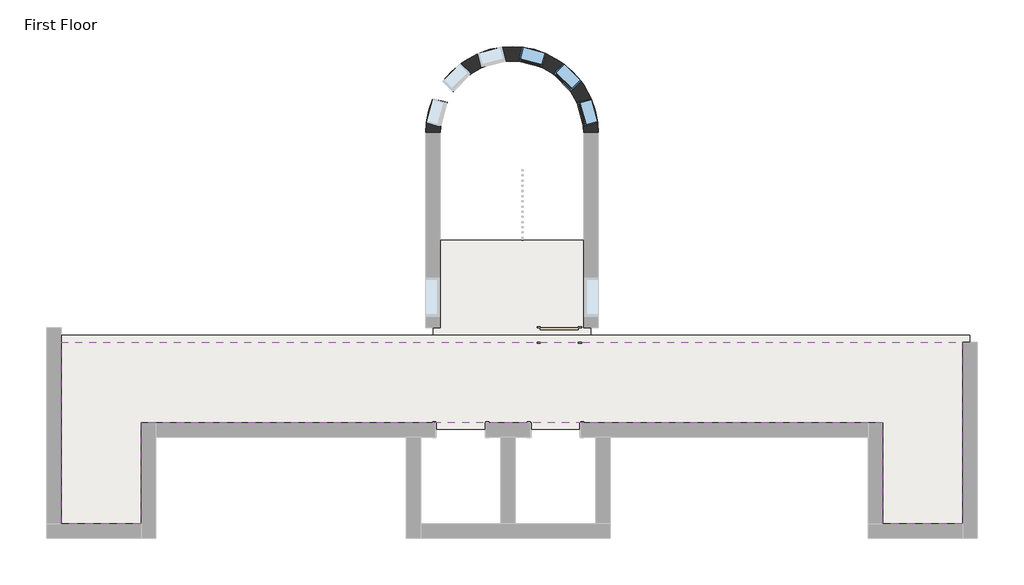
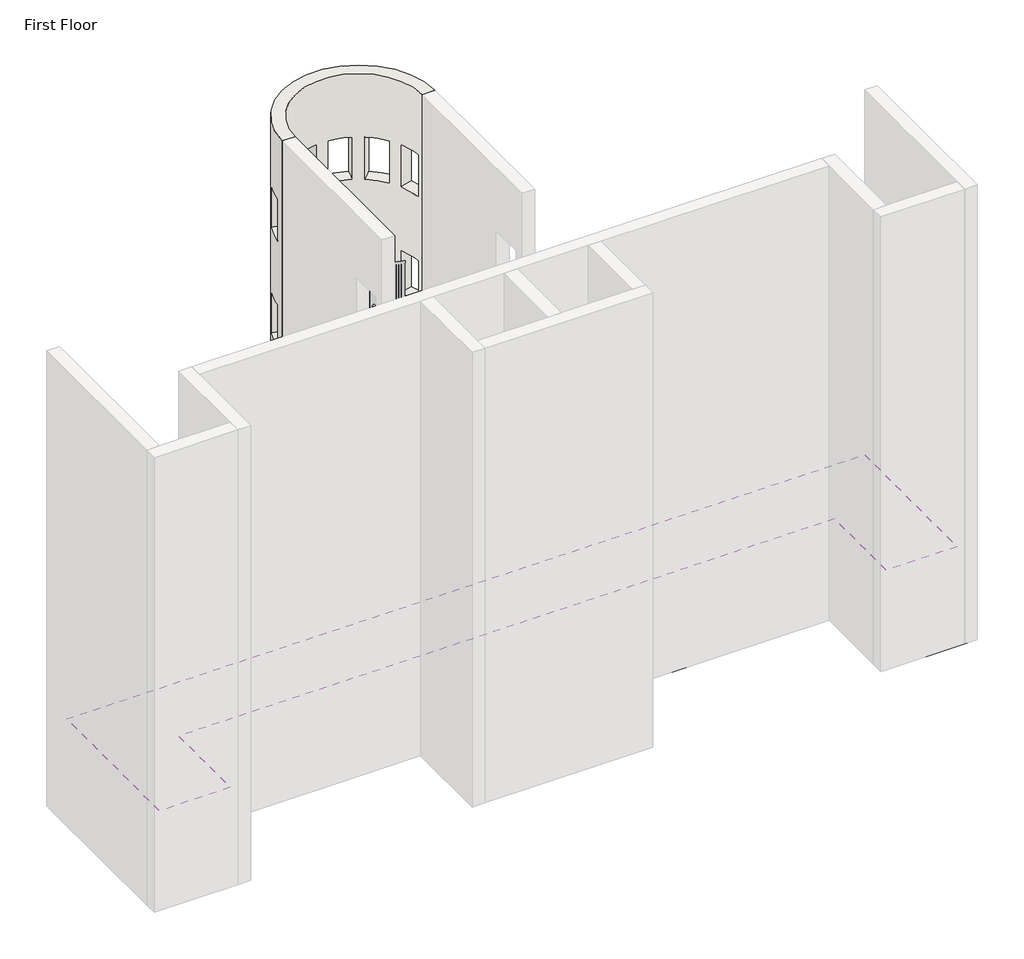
# One storey, part 2 of 4: 3 windows, 2 slabs, 1 covering, 1 wall.
"""IFC4 building model written with IfcOpenShell, lengths in millimetres."""

from ifc_helpers import new_model, si_unit, frame, origin, place, context, project, spatial, polyline, circle_curve, outline, extrude, transform, mapped, element, save
from ifc_brep_helpers import plane_surface, cylinder_surface, revolved_surface, advanced_brep
from components import m_fixed_0610_x_1220mm_1ea27827

model = new_model("IFC4")

# Units and contexts
model_context = context("Model", 3, world=origin())
ifc_project = project(units=[si_unit("LENGTHUNIT", "METRE", prefix="MILLI")], contexts=[model_context])

# Site, building, storey
site = spatial("IfcSite", under=ifc_project)
building = spatial("IfcBuilding", under=site)
storey = spatial("IfcBuildingStorey", under=building, Name="First Floor", Elevation=0.0)

# Covering
placement = place(None, origin())
element("IfcCovering", 1, ObjectType="Plain", at=placement, inside=storey, context=model_context, shape_type="SweptSolid", body=[
    extrude(outline(polyline([(-6448.9075433, -2875.7443399), (-6448.9075433, -5314.1443399), (-8384.9075433, -5314.1443399), (-8384.9075433, -939.7443399), (13363.0924567, -939.7443399), (13363.0924567, -5314.1443399), (11427.0924567, -5314.1443399), (11427.0924567, -2875.7443399), (-6448.9075433, -2875.7443399)])), frame((0.0, 0.0, 2591.0), z_axis=(0.0, 0.0, 1.0), x_axis=(1.0, 0.0, 0.0)), (0.0, 0.0, 1.0), 57.0),
])

# Slabs
element("IfcSlab", 2, ObjectType="Generic 150mm", at=placement, inside=storey, context=model_context, shape_type="SweptSolid", body=[
    extrude(outline(polyline([(13528.0924567, -774.7443399), (13528.0924567, -5479.1443399), (11262.0924567, -5479.1443399), (11262.0924567, -3040.7443399), (-6283.9075433, -3040.7443399), (-6283.9075433, -5479.1443399), (-8549.9075433, -5479.1443399), (-8549.9075433, -774.7443399), (13528.0924567, -774.7443399)])), frame((0.0, 0.0, -150.0), z_axis=(0.0, 0.0, 1.0), x_axis=(1.0, 0.0, 0.0)), (0.0, 0.0, 1.0), 150.0),
])
element("IfcSlab", 3, ObjectType="Generic 150mm", at=placement, inside=storey, context=model_context, shape_type="SweptSolid", body=[
    extrude(outline(polyline([(4394.0924567, -764.7443399), (584.0924567, -764.7443399), (584.0924567, 1521.2556601), (4394.0924567, 1521.2556601), (4394.0924567, -764.7443399)])), frame((0.0, 0.0, -150.0), z_axis=(0.0, 0.0, 1.0), x_axis=(1.0, 0.0, 0.0)), (0.0, 0.0, 1.0), 150.0),
])

# Wall
element("IfcWall", 4, ObjectType="Exterior - Brick on Mtl. Stud", at=placement, inside=storey, context=model_context, shape_type="AdvancedBrep", body=[
    advanced_brep(
    [(4569.0924567, 4112.2556601, 13107.0), (409.0924567, 4112.2556601, 13107.0), (759.0924567, 4112.2556601, 13107.0), (4219.0924567, 4112.2556601, 13107.0), (409.0924567, 4112.2556601, 0.0), (4569.0924567, 4112.2556601, 0.0), (4219.0924567, 4112.2556601, 0.0), (759.0924567, 4112.2556601, 0.0), (580.6237401, 4939.3875465, 915.0), (580.6237401, 4939.3875465, 2135.0), (422.7441225, 4350.1727925, 2135.0), (422.7441225, 4350.1727925, 915.0), (2251.1753243, 6178.6039943, 915.0), (2251.1753243, 6178.6039943, 2135.0), (1661.9605703, 6020.7243768, 2135.0), (1661.9605703, 6020.7243768, 915.0), (1249.876009, 5782.8072444, 915.0), (1249.876009, 5782.8072444, 2135.0), (818.5408725, 5351.4721078, 2135.0), (818.5408725, 5351.4721078, 915.0), (3728.3089044, 5782.8072444, 2135.0), (3728.3089044, 5782.8072444, 915.0), (4159.644041, 5351.4721078, 915.0), (4159.644041, 5351.4721078, 2135.0), (2727.0095891, 6178.6039943, 2135.0), (2727.0095891, 6178.6039943, 915.0), (3316.2243431, 6020.7243768, 915.0), (3316.2243431, 6020.7243768, 2135.0), (4397.5611734, 4939.3875465, 2135.0), (4397.5611734, 4939.3875465, 915.0), (4555.4407909, 4350.1727925, 915.0), (4555.4407909, 4350.1727925, 2135.0), (3728.3089044, 5782.8072444, 11279.0), (3728.3089044, 5782.8072444, 10059.0), (4159.644041, 5351.4721078, 10059.0), (4159.644041, 5351.4721078, 11279.0), (2727.0095891, 6178.6039943, 11279.0), (2727.0095891, 6178.6039943, 10059.0), (3316.2243431, 6020.7243768, 10059.0), (3316.2243431, 6020.7243768, 11279.0), (4397.5611734, 4939.3875465, 11279.0), (4397.5611734, 4939.3875465, 10059.0), (4555.4407909, 4350.1727925, 10059.0), (4555.4407909, 4350.1727925, 11279.0), (1249.876009, 5782.8072444, 10059.0), (1249.876009, 5782.8072444, 11279.0), (818.5408725, 5351.4721078, 11279.0), (818.5408725, 5351.4721078, 10059.0), (2251.1753243, 6178.6039943, 10059.0), (2251.1753243, 6178.6039943, 11279.0), (1661.9605703, 6020.7243768, 11279.0), (1661.9605703, 6020.7243768, 10059.0), (580.6237401, 4939.3875465, 10059.0), (580.6237401, 4939.3875465, 11279.0), (422.7441225, 4350.1727925, 11279.0), (422.7441225, 4350.1727925, 10059.0), (3728.3089044, 5782.8072444, 5183.0), (3728.3089044, 5782.8072444, 3963.0), (4159.644041, 5351.4721078, 3963.0), (4159.644041, 5351.4721078, 5183.0), (2727.0095891, 6178.6039943, 5183.0), (2727.0095891, 6178.6039943, 3963.0), (3316.2243431, 6020.7243768, 3963.0), (3316.2243431, 6020.7243768, 5183.0), (4397.5611734, 4939.3875465, 5183.0), (4397.5611734, 4939.3875465, 3963.0), (4555.4407909, 4350.1727925, 3963.0), (4555.4407909, 4350.1727925, 5183.0), (1249.876009, 5782.8072444, 3963.0), (1249.876009, 5782.8072444, 5183.0), (818.5408725, 5351.4721078, 5183.0), (818.5408725, 5351.4721078, 3963.0), (2251.1753243, 6178.6039943, 3963.0), (2251.1753243, 6178.6039943, 5183.0), (1661.9605703, 6020.7243768, 5183.0), (1661.9605703, 6020.7243768, 3963.0), (580.6237401, 4939.3875465, 3963.0), (580.6237401, 4939.3875465, 5183.0), (422.7441225, 4350.1727925, 5183.0), (422.7441225, 4350.1727925, 3963.0), (3728.3089044, 5782.8072444, 8231.0), (3728.3089044, 5782.8072444, 7011.0), (4159.644041, 5351.4721078, 7011.0), (4159.644041, 5351.4721078, 8231.0), (2727.0095891, 6178.6039943, 8231.0), (2727.0095891, 6178.6039943, 7011.0), (3316.2243431, 6020.7243768, 7011.0), (3316.2243431, 6020.7243768, 8231.0), (4397.5611734, 4939.3875465, 8231.0), (4397.5611734, 4939.3875465, 7011.0), (4555.4407909, 4350.1727925, 7011.0), (4555.4407909, 4350.1727925, 8231.0), (1249.876009, 5782.8072444, 7011.0), (1249.876009, 5782.8072444, 8231.0), (818.5408725, 5351.4721078, 8231.0), (818.5408725, 5351.4721078, 7011.0), (2251.1753243, 6178.6039943, 7011.0), (2251.1753243, 6178.6039943, 8231.0), (1661.9605703, 6020.7243768, 8231.0), (1661.9605703, 6020.7243768, 7011.0), (580.6237401, 4939.3875465, 7011.0), (580.6237401, 4939.3875465, 8231.0), (422.7441225, 4350.1727925, 8231.0), (422.7441225, 4350.1727925, 7011.0), (923.1553069, 4847.6064898, 915.0), (765.2756894, 4258.3917358, 915.0), (765.2756894, 4258.3917358, 2135.0), (923.1553069, 4847.6064898, 2135.0), (2342.956381, 5836.0724274, 2135.0), (2342.956381, 5836.0724274, 915.0), (1753.741627, 5678.1928099, 915.0), (1753.741627, 5678.1928099, 2135.0), (1500.6265191, 5532.0567342, 2135.0), (1500.6265191, 5532.0567342, 915.0), (1069.2913826, 5100.7215977, 915.0), (1069.2913826, 5100.7215977, 2135.0), (3477.5583943, 5532.0567342, 915.0), (3477.5583943, 5532.0567342, 2135.0), (3908.8935309, 5100.7215977, 2135.0), (3908.8935309, 5100.7215977, 915.0), (2635.2285324, 5836.0724274, 915.0), (2635.2285324, 5836.0724274, 2135.0), (3224.4432864, 5678.1928099, 2135.0), (3224.4432864, 5678.1928099, 915.0), (4055.0296065, 4847.6064898, 915.0), (4055.0296065, 4847.6064898, 2135.0), (4212.9092241, 4258.3917358, 2135.0), (4212.9092241, 4258.3917358, 915.0), (3477.5583943, 5532.0567342, 10059.0), (3477.5583943, 5532.0567342, 11279.0), (3908.8935309, 5100.7215977, 11279.0), (3908.8935309, 5100.7215977, 10059.0), (2635.2285324, 5836.0724274, 10059.0), (2635.2285324, 5836.0724274, 11279.0), (3224.4432864, 5678.1928099, 11279.0), (3224.4432864, 5678.1928099, 10059.0), (4055.0296065, 4847.6064898, 10059.0), (4055.0296065, 4847.6064898, 11279.0), (4212.9092241, 4258.3917358, 11279.0), (4212.9092241, 4258.3917358, 10059.0), (1500.6265191, 5532.0567342, 11279.0), (1500.6265191, 5532.0567342, 10059.0), (1069.2913826, 5100.7215977, 10059.0), (1069.2913826, 5100.7215977, 11279.0), (2342.956381, 5836.0724274, 11279.0), (2342.956381, 5836.0724274, 10059.0), (1753.741627, 5678.1928099, 10059.0), (1753.741627, 5678.1928099, 11279.0), (923.1553069, 4847.6064898, 11279.0), (923.1553069, 4847.6064898, 10059.0), (765.2756894, 4258.3917358, 10059.0), (765.2756894, 4258.3917358, 11279.0), (3477.5583943, 5532.0567342, 3963.0), (3477.5583943, 5532.0567342, 5183.0), (3908.8935309, 5100.7215977, 5183.0), (3908.8935309, 5100.7215977, 3963.0), (2635.2285324, 5836.0724274, 3963.0), (2635.2285324, 5836.0724274, 5183.0), (3224.4432864, 5678.1928099, 5183.0), (3224.4432864, 5678.1928099, 3963.0), (4055.0296065, 4847.6064898, 3963.0), (4055.0296065, 4847.6064898, 5183.0), (4212.9092241, 4258.3917358, 5183.0), (4212.9092241, 4258.3917358, 3963.0), (1500.6265191, 5532.0567342, 5183.0), (1500.6265191, 5532.0567342, 3963.0), (1069.2913826, 5100.7215977, 3963.0), (1069.2913826, 5100.7215977, 5183.0), (2342.956381, 5836.0724274, 5183.0), (2342.956381, 5836.0724274, 3963.0), (1753.741627, 5678.1928099, 3963.0), (1753.741627, 5678.1928099, 5183.0), (923.1553069, 4847.6064898, 5183.0), (923.1553069, 4847.6064898, 3963.0), (765.2756894, 4258.3917358, 3963.0), (765.2756894, 4258.3917358, 5183.0), (3477.5583943, 5532.0567342, 7011.0), (3477.5583943, 5532.0567342, 8231.0), (3908.8935309, 5100.7215977, 8231.0), (3908.8935309, 5100.7215977, 7011.0), (2635.2285324, 5836.0724274, 7011.0), (2635.2285324, 5836.0724274, 8231.0), (3224.4432864, 5678.1928099, 8231.0), (3224.4432864, 5678.1928099, 7011.0), (4055.0296065, 4847.6064898, 7011.0), (4055.0296065, 4847.6064898, 8231.0), (4212.9092241, 4258.3917358, 8231.0), (4212.9092241, 4258.3917358, 7011.0), (1500.6265191, 5532.0567342, 8231.0), (1500.6265191, 5532.0567342, 7011.0), (1069.2913826, 5100.7215977, 7011.0), (1069.2913826, 5100.7215977, 8231.0), (2342.956381, 5836.0724274, 8231.0), (2342.956381, 5836.0724274, 7011.0), (1753.741627, 5678.1928099, 7011.0), (1753.741627, 5678.1928099, 8231.0), (923.1553069, 4847.6064898, 8231.0), (923.1553069, 4847.6064898, 7011.0), (765.2756894, 4258.3917358, 7011.0), (765.2756894, 4258.3917358, 8231.0)],
    [
        (0, 1, circle_curve(frame((2489.0924567, 4112.2556601, 13107.0), z_axis=(0.0, 0.0, 1.0), x_axis=(1.0, 0.0, 0.0)), 2080.0)),
        (1, 2),
        (2, 3, circle_curve(frame((2489.0924567, 4112.2556601, 13107.0), z_axis=(0.0, 0.0, -1.0), x_axis=(1.0, 0.0, 0.0)), 1730.0)),
        (3, 0),
        (4, 5, circle_curve(frame((2489.0924567, 4112.2556601, 0.0), z_axis=(0.0, 0.0, -1.0), x_axis=(1.0, 0.0, 0.0)), 2080.0)),
        (5, 6),
        (6, 7, circle_curve(frame((2489.0924567, 4112.2556601, 0.0), z_axis=(0.0, 0.0, 1.0), x_axis=(1.0, 0.0, 0.0)), 1730.0)),
        (7, 4),
        (0, 5),
        (4, 1),
        (8, 9),
        (9, 10, circle_curve(frame((2489.0924567, 4112.2556601, 2135.0), z_axis=(0.0, 0.0, 1.0), x_axis=(1.0, 0.0, 0.0)), 2080.0)),
        (10, 11),
        (11, 8, circle_curve(frame((2489.0924567, 4112.2556601, 915.0), z_axis=(0.0, 0.0, -1.0), x_axis=(1.0, 0.0, 0.0)), 2080.0)),
        (12, 13),
        (13, 14, circle_curve(frame((2489.0924567, 4112.2556601, 2135.0), z_axis=(0.0, 0.0, 1.0), x_axis=(1.0, 0.0, 0.0)), 2080.0)),
        (14, 15),
        (15, 12, circle_curve(frame((2489.0924567, 4112.2556601, 915.0), z_axis=(0.0, 0.0, -1.0), x_axis=(1.0, 0.0, 0.0)), 2080.0)),
        (16, 17),
        (17, 18, circle_curve(frame((2489.0924567, 4112.2556601, 2135.0), z_axis=(0.0, 0.0, 1.0), x_axis=(1.0, 0.0, 0.0)), 2080.0)),
        (18, 19),
        (19, 16, circle_curve(frame((2489.0924567, 4112.2556601, 915.0), z_axis=(0.0, 0.0, -1.0), x_axis=(1.0, 0.0, 0.0)), 2080.0)),
        (20, 21),
        (21, 22, circle_curve(frame((2489.0924567, 4112.2556601, 915.0), z_axis=(0.0, 0.0, -1.0), x_axis=(1.0, 0.0, 0.0)), 2080.0)),
        (22, 23),
        (23, 20, circle_curve(frame((2489.0924567, 4112.2556601, 2135.0), z_axis=(0.0, 0.0, 1.0), x_axis=(1.0, 0.0, 0.0)), 2080.0)),
        (24, 25),
        (25, 26, circle_curve(frame((2489.0924567, 4112.2556601, 915.0), z_axis=(0.0, 0.0, -1.0), x_axis=(1.0, 0.0, 0.0)), 2080.0)),
        (26, 27),
        (27, 24, circle_curve(frame((2489.0924567, 4112.2556601, 2135.0), z_axis=(0.0, 0.0, 1.0), x_axis=(1.0, 0.0, 0.0)), 2080.0)),
        (28, 29),
        (29, 30, circle_curve(frame((2489.0924567, 4112.2556601, 915.0), z_axis=(0.0, 0.0, -1.0), x_axis=(1.0, 0.0, 0.0)), 2080.0)),
        (30, 31),
        (31, 28, circle_curve(frame((2489.0924567, 4112.2556601, 2135.0), z_axis=(0.0, 0.0, 1.0), x_axis=(1.0, 0.0, 0.0)), 2080.0)),
        (32, 33),
        (33, 34, circle_curve(frame((2489.0924567, 4112.2556601, 10059.0), z_axis=(0.0, 0.0, -1.0), x_axis=(1.0, 0.0, 0.0)), 2080.0)),
        (34, 35),
        (35, 32, circle_curve(frame((2489.0924567, 4112.2556601, 11279.0), z_axis=(0.0, 0.0, 1.0), x_axis=(1.0, 0.0, 0.0)), 2080.0)),
        (36, 37),
        (37, 38, circle_curve(frame((2489.0924567, 4112.2556601, 10059.0), z_axis=(0.0, 0.0, -1.0), x_axis=(1.0, 0.0, 0.0)), 2080.0)),
        (38, 39),
        (39, 36, circle_curve(frame((2489.0924567, 4112.2556601, 11279.0), z_axis=(0.0, 0.0, 1.0), x_axis=(1.0, 0.0, 0.0)), 2080.0)),
        (40, 41),
        (41, 42, circle_curve(frame((2489.0924567, 4112.2556601, 10059.0), z_axis=(0.0, 0.0, -1.0), x_axis=(1.0, 0.0, 0.0)), 2080.0)),
        (42, 43),
        (43, 40, circle_curve(frame((2489.0924567, 4112.2556601, 11279.0), z_axis=(0.0, 0.0, 1.0), x_axis=(1.0, 0.0, 0.0)), 2080.0)),
        (44, 45),
        (45, 46, circle_curve(frame((2489.0924567, 4112.2556601, 11279.0), z_axis=(0.0, 0.0, 1.0), x_axis=(1.0, 0.0, 0.0)), 2080.0)),
        (46, 47),
        (47, 44, circle_curve(frame((2489.0924567, 4112.2556601, 10059.0), z_axis=(0.0, 0.0, -1.0), x_axis=(1.0, 0.0, 0.0)), 2080.0)),
        (48, 49),
        (49, 50, circle_curve(frame((2489.0924567, 4112.2556601, 11279.0), z_axis=(0.0, 0.0, 1.0), x_axis=(1.0, 0.0, 0.0)), 2080.0)),
        (50, 51),
        (51, 48, circle_curve(frame((2489.0924567, 4112.2556601, 10059.0), z_axis=(0.0, 0.0, -1.0), x_axis=(1.0, 0.0, 0.0)), 2080.0)),
        (52, 53),
        (53, 54, circle_curve(frame((2489.0924567, 4112.2556601, 11279.0), z_axis=(0.0, 0.0, 1.0), x_axis=(1.0, 0.0, 0.0)), 2080.0)),
        (54, 55),
        (55, 52, circle_curve(frame((2489.0924567, 4112.2556601, 10059.0), z_axis=(0.0, 0.0, -1.0), x_axis=(1.0, 0.0, 0.0)), 2080.0)),
        (56, 57),
        (57, 58, circle_curve(frame((2489.0924567, 4112.2556601, 3963.0), z_axis=(0.0, 0.0, -1.0), x_axis=(1.0, 0.0, 0.0)), 2080.0)),
        (58, 59),
        (59, 56, circle_curve(frame((2489.0924567, 4112.2556601, 5183.0), z_axis=(0.0, 0.0, 1.0), x_axis=(1.0, 0.0, 0.0)), 2080.0)),
        (60, 61),
        (61, 62, circle_curve(frame((2489.0924567, 4112.2556601, 3963.0), z_axis=(0.0, 0.0, -1.0), x_axis=(1.0, 0.0, 0.0)), 2080.0)),
        (62, 63),
        (63, 60, circle_curve(frame((2489.0924567, 4112.2556601, 5183.0), z_axis=(0.0, 0.0, 1.0), x_axis=(1.0, 0.0, 0.0)), 2080.0)),
        (64, 65),
        (65, 66, circle_curve(frame((2489.0924567, 4112.2556601, 3963.0), z_axis=(0.0, 0.0, -1.0), x_axis=(1.0, 0.0, 0.0)), 2080.0)),
        (66, 67),
        (67, 64, circle_curve(frame((2489.0924567, 4112.2556601, 5183.0), z_axis=(0.0, 0.0, 1.0), x_axis=(1.0, 0.0, 0.0)), 2080.0)),
        (68, 69),
        (69, 70, circle_curve(frame((2489.0924567, 4112.2556601, 5183.0), z_axis=(0.0, 0.0, 1.0), x_axis=(1.0, 0.0, 0.0)), 2080.0)),
        (70, 71),
        (71, 68, circle_curve(frame((2489.0924567, 4112.2556601, 3963.0), z_axis=(0.0, 0.0, -1.0), x_axis=(1.0, 0.0, 0.0)), 2080.0)),
        (72, 73),
        (73, 74, circle_curve(frame((2489.0924567, 4112.2556601, 5183.0), z_axis=(0.0, 0.0, 1.0), x_axis=(1.0, 0.0, 0.0)), 2080.0)),
        (74, 75),
        (75, 72, circle_curve(frame((2489.0924567, 4112.2556601, 3963.0), z_axis=(0.0, 0.0, -1.0), x_axis=(1.0, 0.0, 0.0)), 2080.0)),
        (76, 77),
        (77, 78, circle_curve(frame((2489.0924567, 4112.2556601, 5183.0), z_axis=(0.0, 0.0, 1.0), x_axis=(1.0, 0.0, 0.0)), 2080.0)),
        (78, 79),
        (79, 76, circle_curve(frame((2489.0924567, 4112.2556601, 3963.0), z_axis=(0.0, 0.0, -1.0), x_axis=(1.0, 0.0, 0.0)), 2080.0)),
        (80, 81),
        (81, 82, circle_curve(frame((2489.0924567, 4112.2556601, 7011.0), z_axis=(0.0, 0.0, -1.0), x_axis=(1.0, 0.0, 0.0)), 2080.0)),
        (82, 83),
        (83, 80, circle_curve(frame((2489.0924567, 4112.2556601, 8231.0), z_axis=(0.0, 0.0, 1.0), x_axis=(1.0, 0.0, 0.0)), 2080.0)),
        (84, 85),
        (85, 86, circle_curve(frame((2489.0924567, 4112.2556601, 7011.0), z_axis=(0.0, 0.0, -1.0), x_axis=(1.0, 0.0, 0.0)), 2080.0)),
        (86, 87),
        (87, 84, circle_curve(frame((2489.0924567, 4112.2556601, 8231.0), z_axis=(0.0, 0.0, 1.0), x_axis=(1.0, 0.0, 0.0)), 2080.0)),
        (88, 89),
        (89, 90, circle_curve(frame((2489.0924567, 4112.2556601, 7011.0), z_axis=(0.0, 0.0, -1.0), x_axis=(1.0, 0.0, 0.0)), 2080.0)),
        (90, 91),
        (91, 88, circle_curve(frame((2489.0924567, 4112.2556601, 8231.0), z_axis=(0.0, 0.0, 1.0), x_axis=(1.0, 0.0, 0.0)), 2080.0)),
        (92, 93),
        (93, 94, circle_curve(frame((2489.0924567, 4112.2556601, 8231.0), z_axis=(0.0, 0.0, 1.0), x_axis=(1.0, 0.0, 0.0)), 2080.0)),
        (94, 95),
        (95, 92, circle_curve(frame((2489.0924567, 4112.2556601, 7011.0), z_axis=(0.0, 0.0, -1.0), x_axis=(1.0, 0.0, 0.0)), 2080.0)),
        (96, 97),
        (97, 98, circle_curve(frame((2489.0924567, 4112.2556601, 8231.0), z_axis=(0.0, 0.0, 1.0), x_axis=(1.0, 0.0, 0.0)), 2080.0)),
        (98, 99),
        (99, 96, circle_curve(frame((2489.0924567, 4112.2556601, 7011.0), z_axis=(0.0, 0.0, -1.0), x_axis=(1.0, 0.0, 0.0)), 2080.0)),
        (100, 101),
        (101, 102, circle_curve(frame((2489.0924567, 4112.2556601, 8231.0), z_axis=(0.0, 0.0, 1.0), x_axis=(1.0, 0.0, 0.0)), 2080.0)),
        (102, 103),
        (103, 100, circle_curve(frame((2489.0924567, 4112.2556601, 7011.0), z_axis=(0.0, 0.0, -1.0), x_axis=(1.0, 0.0, 0.0)), 2080.0)),
        (7, 2),
        (6, 3),
        (104, 105, circle_curve(frame((2489.0924567, 4112.2556601, 915.0), z_axis=(0.0, 0.0, 1.0), x_axis=(1.0, 0.0, 0.0)), 1730.0)),
        (105, 106),
        (106, 107, circle_curve(frame((2489.0924567, 4112.2556601, 2135.0), z_axis=(0.0, 0.0, -1.0), x_axis=(1.0, 0.0, 0.0)), 1730.0)),
        (107, 104),
        (108, 109),
        (109, 110, circle_curve(frame((2489.0924567, 4112.2556601, 915.0), z_axis=(0.0, 0.0, 1.0), x_axis=(1.0, 0.0, 0.0)), 1730.0)),
        (110, 111),
        (111, 108, circle_curve(frame((2489.0924567, 4112.2556601, 2135.0), z_axis=(0.0, 0.0, -1.0), x_axis=(1.0, 0.0, 0.0)), 1730.0)),
        (112, 113),
        (113, 114, circle_curve(frame((2489.0924567, 4112.2556601, 915.0), z_axis=(0.0, 0.0, 1.0), x_axis=(1.0, 0.0, 0.0)), 1730.0)),
        (114, 115),
        (115, 112, circle_curve(frame((2489.0924567, 4112.2556601, 2135.0), z_axis=(0.0, 0.0, -1.0), x_axis=(1.0, 0.0, 0.0)), 1730.0)),
        (116, 117),
        (117, 118, circle_curve(frame((2489.0924567, 4112.2556601, 2135.0), z_axis=(0.0, 0.0, -1.0), x_axis=(1.0, 0.0, 0.0)), 1730.0)),
        (118, 119),
        (119, 116, circle_curve(frame((2489.0924567, 4112.2556601, 915.0), z_axis=(0.0, 0.0, 1.0), x_axis=(1.0, 0.0, 0.0)), 1730.0)),
        (120, 121),
        (121, 122, circle_curve(frame((2489.0924567, 4112.2556601, 2135.0), z_axis=(0.0, 0.0, -1.0), x_axis=(1.0, 0.0, 0.0)), 1730.0)),
        (122, 123),
        (123, 120, circle_curve(frame((2489.0924567, 4112.2556601, 915.0), z_axis=(0.0, 0.0, 1.0), x_axis=(1.0, 0.0, 0.0)), 1730.0)),
        (124, 125),
        (125, 126, circle_curve(frame((2489.0924567, 4112.2556601, 2135.0), z_axis=(0.0, 0.0, -1.0), x_axis=(1.0, 0.0, 0.0)), 1730.0)),
        (126, 127),
        (127, 124, circle_curve(frame((2489.0924567, 4112.2556601, 915.0), z_axis=(0.0, 0.0, 1.0), x_axis=(1.0, 0.0, 0.0)), 1730.0)),
        (128, 129),
        (129, 130, circle_curve(frame((2489.0924567, 4112.2556601, 11279.0), z_axis=(0.0, 0.0, -1.0), x_axis=(1.0, 0.0, 0.0)), 1730.0)),
        (130, 131),
        (131, 128, circle_curve(frame((2489.0924567, 4112.2556601, 10059.0), z_axis=(0.0, 0.0, 1.0), x_axis=(1.0, 0.0, 0.0)), 1730.0)),
        (132, 133),
        (133, 134, circle_curve(frame((2489.0924567, 4112.2556601, 11279.0), z_axis=(0.0, 0.0, -1.0), x_axis=(1.0, 0.0, 0.0)), 1730.0)),
        (134, 135),
        (135, 132, circle_curve(frame((2489.0924567, 4112.2556601, 10059.0), z_axis=(0.0, 0.0, 1.0), x_axis=(1.0, 0.0, 0.0)), 1730.0)),
        (136, 137),
        (137, 138, circle_curve(frame((2489.0924567, 4112.2556601, 11279.0), z_axis=(0.0, 0.0, -1.0), x_axis=(1.0, 0.0, 0.0)), 1730.0)),
        (138, 139),
        (139, 136, circle_curve(frame((2489.0924567, 4112.2556601, 10059.0), z_axis=(0.0, 0.0, 1.0), x_axis=(1.0, 0.0, 0.0)), 1730.0)),
        (140, 141),
        (141, 142, circle_curve(frame((2489.0924567, 4112.2556601, 10059.0), z_axis=(0.0, 0.0, 1.0), x_axis=(1.0, 0.0, 0.0)), 1730.0)),
        (142, 143),
        (143, 140, circle_curve(frame((2489.0924567, 4112.2556601, 11279.0), z_axis=(0.0, 0.0, -1.0), x_axis=(1.0, 0.0, 0.0)), 1730.0)),
        (144, 145),
        (145, 146, circle_curve(frame((2489.0924567, 4112.2556601, 10059.0), z_axis=(0.0, 0.0, 1.0), x_axis=(1.0, 0.0, 0.0)), 1730.0)),
        (146, 147),
        (147, 144, circle_curve(frame((2489.0924567, 4112.2556601, 11279.0), z_axis=(0.0, 0.0, -1.0), x_axis=(1.0, 0.0, 0.0)), 1730.0)),
        (148, 149),
        (149, 150, circle_curve(frame((2489.0924567, 4112.2556601, 10059.0), z_axis=(0.0, 0.0, 1.0), x_axis=(1.0, 0.0, 0.0)), 1730.0)),
        (150, 151),
        (151, 148, circle_curve(frame((2489.0924567, 4112.2556601, 11279.0), z_axis=(0.0, 0.0, -1.0), x_axis=(1.0, 0.0, 0.0)), 1730.0)),
        (152, 153),
        (153, 154, circle_curve(frame((2489.0924567, 4112.2556601, 5183.0), z_axis=(0.0, 0.0, -1.0), x_axis=(1.0, 0.0, 0.0)), 1730.0)),
        (154, 155),
        (155, 152, circle_curve(frame((2489.0924567, 4112.2556601, 3963.0), z_axis=(0.0, 0.0, 1.0), x_axis=(1.0, 0.0, 0.0)), 1730.0)),
        (156, 157),
        (157, 158, circle_curve(frame((2489.0924567, 4112.2556601, 5183.0), z_axis=(0.0, 0.0, -1.0), x_axis=(1.0, 0.0, 0.0)), 1730.0)),
        (158, 159),
        (159, 156, circle_curve(frame((2489.0924567, 4112.2556601, 3963.0), z_axis=(0.0, 0.0, 1.0), x_axis=(1.0, 0.0, 0.0)), 1730.0)),
        (160, 161),
        (161, 162, circle_curve(frame((2489.0924567, 4112.2556601, 5183.0), z_axis=(0.0, 0.0, -1.0), x_axis=(1.0, 0.0, 0.0)), 1730.0)),
        (162, 163),
        (163, 160, circle_curve(frame((2489.0924567, 4112.2556601, 3963.0), z_axis=(0.0, 0.0, 1.0), x_axis=(1.0, 0.0, 0.0)), 1730.0)),
        (164, 165),
        (165, 166, circle_curve(frame((2489.0924567, 4112.2556601, 3963.0), z_axis=(0.0, 0.0, 1.0), x_axis=(1.0, 0.0, 0.0)), 1730.0)),
        (166, 167),
        (167, 164, circle_curve(frame((2489.0924567, 4112.2556601, 5183.0), z_axis=(0.0, 0.0, -1.0), x_axis=(1.0, 0.0, 0.0)), 1730.0)),
        (168, 169),
        (169, 170, circle_curve(frame((2489.0924567, 4112.2556601, 3963.0), z_axis=(0.0, 0.0, 1.0), x_axis=(1.0, 0.0, 0.0)), 1730.0)),
        (170, 171),
        (171, 168, circle_curve(frame((2489.0924567, 4112.2556601, 5183.0), z_axis=(0.0, 0.0, -1.0), x_axis=(1.0, 0.0, 0.0)), 1730.0)),
        (172, 173),
        (173, 174, circle_curve(frame((2489.0924567, 4112.2556601, 3963.0), z_axis=(0.0, 0.0, 1.0), x_axis=(1.0, 0.0, 0.0)), 1730.0)),
        (174, 175),
        (175, 172, circle_curve(frame((2489.0924567, 4112.2556601, 5183.0), z_axis=(0.0, 0.0, -1.0), x_axis=(1.0, 0.0, 0.0)), 1730.0)),
        (176, 177),
        (177, 178, circle_curve(frame((2489.0924567, 4112.2556601, 8231.0), z_axis=(0.0, 0.0, -1.0), x_axis=(1.0, 0.0, 0.0)), 1730.0)),
        (178, 179),
        (179, 176, circle_curve(frame((2489.0924567, 4112.2556601, 7011.0), z_axis=(0.0, 0.0, 1.0), x_axis=(1.0, 0.0, 0.0)), 1730.0)),
        (180, 181),
        (181, 182, circle_curve(frame((2489.0924567, 4112.2556601, 8231.0), z_axis=(0.0, 0.0, -1.0), x_axis=(1.0, 0.0, 0.0)), 1730.0)),
        (182, 183),
        (183, 180, circle_curve(frame((2489.0924567, 4112.2556601, 7011.0), z_axis=(0.0, 0.0, 1.0), x_axis=(1.0, 0.0, 0.0)), 1730.0)),
        (184, 185),
        (185, 186, circle_curve(frame((2489.0924567, 4112.2556601, 8231.0), z_axis=(0.0, 0.0, -1.0), x_axis=(1.0, 0.0, 0.0)), 1730.0)),
        (186, 187),
        (187, 184, circle_curve(frame((2489.0924567, 4112.2556601, 7011.0), z_axis=(0.0, 0.0, 1.0), x_axis=(1.0, 0.0, 0.0)), 1730.0)),
        (188, 189),
        (189, 190, circle_curve(frame((2489.0924567, 4112.2556601, 7011.0), z_axis=(0.0, 0.0, 1.0), x_axis=(1.0, 0.0, 0.0)), 1730.0)),
        (190, 191),
        (191, 188, circle_curve(frame((2489.0924567, 4112.2556601, 8231.0), z_axis=(0.0, 0.0, -1.0), x_axis=(1.0, 0.0, 0.0)), 1730.0)),
        (192, 193),
        (193, 194, circle_curve(frame((2489.0924567, 4112.2556601, 7011.0), z_axis=(0.0, 0.0, 1.0), x_axis=(1.0, 0.0, 0.0)), 1730.0)),
        (194, 195),
        (195, 192, circle_curve(frame((2489.0924567, 4112.2556601, 8231.0), z_axis=(0.0, 0.0, -1.0), x_axis=(1.0, 0.0, 0.0)), 1730.0)),
        (196, 197),
        (197, 198, circle_curve(frame((2489.0924567, 4112.2556601, 7011.0), z_axis=(0.0, 0.0, 1.0), x_axis=(1.0, 0.0, 0.0)), 1730.0)),
        (198, 199),
        (199, 196, circle_curve(frame((2489.0924567, 4112.2556601, 8231.0), z_axis=(0.0, 0.0, -1.0), x_axis=(1.0, 0.0, 0.0)), 1730.0)),
        (8, 104),
        (107, 9),
        (106, 10),
        (105, 11),
        (12, 109),
        (108, 13),
        (111, 14),
        (110, 15),
        (16, 113),
        (112, 17),
        (115, 18),
        (114, 19),
        (116, 21),
        (20, 117),
        (23, 118),
        (22, 119),
        (120, 25),
        (24, 121),
        (27, 122),
        (26, 123),
        (124, 29),
        (28, 125),
        (31, 126),
        (30, 127),
        (128, 33),
        (32, 129),
        (35, 130),
        (34, 131),
        (132, 37),
        (36, 133),
        (39, 134),
        (38, 135),
        (136, 41),
        (40, 137),
        (43, 138),
        (42, 139),
        (44, 141),
        (140, 45),
        (143, 46),
        (142, 47),
        (48, 145),
        (144, 49),
        (147, 50),
        (146, 51),
        (52, 149),
        (148, 53),
        (151, 54),
        (150, 55),
        (152, 57),
        (56, 153),
        (59, 154),
        (58, 155),
        (156, 61),
        (60, 157),
        (63, 158),
        (62, 159),
        (160, 65),
        (64, 161),
        (67, 162),
        (66, 163),
        (68, 165),
        (164, 69),
        (167, 70),
        (166, 71),
        (72, 169),
        (168, 73),
        (171, 74),
        (170, 75),
        (76, 173),
        (172, 77),
        (175, 78),
        (174, 79),
        (176, 81),
        (80, 177),
        (83, 178),
        (82, 179),
        (180, 85),
        (84, 181),
        (87, 182),
        (86, 183),
        (184, 89),
        (88, 185),
        (91, 186),
        (90, 187),
        (92, 189),
        (188, 93),
        (191, 94),
        (190, 95),
        (96, 193),
        (192, 97),
        (195, 98),
        (194, 99),
        (100, 197),
        (196, 101),
        (199, 102),
        (198, 103),
    ],
    [
        plane_surface(frame((4569.0924567, 4112.2556601, 13107.0), z_axis=(0.0, 0.0, 1.0), x_axis=(0.0, 1.0, 0.0))),
        plane_surface(frame((4569.0924567, 4112.2556601, 0.0), z_axis=(0.0, 0.0, -1.0), x_axis=(0.0, -1.0, 0.0))),
        cylinder_surface(frame((2489.0924567, 4112.2556601, 0.0), z_axis=(0.0, 0.0, 1.0), x_axis=(1.0, 0.0, 0.0)), 2080.0),
        plane_surface(frame((409.0924567, 4112.2556601, 13107.0), z_axis=(0.0, -1.0, 0.0), x_axis=(0.0, 0.0, -1.0))),
        revolved_surface(polyline([(4219.0924567, 4112.2556601, 0.0), (4219.0924567, 4112.2556601, 13107.0)]), (2489.0924567, 4112.2556601, 0.0), (0.0, 0.0, -1.0)),
        plane_surface(frame((4219.0924567, 4112.2556601, 13107.0), z_axis=(0.0, -1.0, 0.0), x_axis=(0.0, 0.0, -1.0))),
        plane_surface(frame((580.6237401, 4939.3875465, 915.0), z_axis=(-0.25881904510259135, -0.9659258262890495, 0.0), x_axis=(0.9659258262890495, -0.25881904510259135, 0.0))),
        plane_surface(frame((580.6237401, 4939.3875465, 2135.0), z_axis=(0.0, 0.0, -1.0000000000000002), x_axis=(0.9659258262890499, -0.25881904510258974, 0.0))),
        plane_surface(frame((422.7441225, 4350.1727925, 2135.0), z_axis=(0.25881904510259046, 0.9659258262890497, 0.0), x_axis=(0.9659258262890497, -0.25881904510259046, 0.0))),
        plane_surface(frame((422.7441225, 4350.1727925, 915.0), z_axis=(0.0, 0.0, 1.0), x_axis=(0.9659258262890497, -0.25881904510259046, 0.0))),
        plane_surface(frame((2645.6155491, 4706.533035, 915.0), z_axis=(-0.9659258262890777, -0.2588190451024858, 0.0), x_axis=(-0.2588190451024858, 0.9659258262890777, 0.0))),
        plane_surface(frame((2645.6155491, 4706.533035, 2135.0), z_axis=(0.0, 0.0, -1.0000000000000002), x_axis=(-0.2588190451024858, 0.9659258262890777, 0.0))),
        plane_surface(frame((2056.400795, 4548.6534175, 2135.0), z_axis=(0.9659258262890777, 0.25881904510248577, 0.0), x_axis=(-0.25881904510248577, 0.9659258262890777, 0.0))),
        plane_surface(frame((2056.400795, 4548.6534175, 915.0), z_axis=(0.0, 0.0, 1.0000000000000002), x_axis=(-0.25881904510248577, 0.9659258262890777, 0.0))),
        plane_surface(frame((1249.876009, 5782.8072444, 915.0), z_axis=(-0.7071067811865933, -0.7071067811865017, 0.0), x_axis=(0.7071067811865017, -0.7071067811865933, 0.0))),
        plane_surface(frame((1249.876009, 5782.8072444, 2135.0), z_axis=(0.0, 0.0, -1.0), x_axis=(0.7071067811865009, -0.7071067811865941, 0.0))),
        plane_surface(frame((818.5408725, 5351.4721078, 2135.0), z_axis=(0.7071067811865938, 0.7071067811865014, 0.0), x_axis=(0.7071067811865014, -0.7071067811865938, 0.0))),
        plane_surface(frame((818.5408725, 5351.4721078, 915.0), z_axis=(0.0, 0.0, 1.0000000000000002), x_axis=(0.7071067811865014, -0.7071067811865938, 0.0))),
        plane_surface(frame((3477.5583943, 5532.0567342, 915.0), z_axis=(0.7071067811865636, -0.7071067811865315, 0.0), x_axis=(0.7071067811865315, 0.7071067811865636, 0.0))),
        plane_surface(frame((3477.5583943, 5532.0567342, 2135.0), z_axis=(0.0, 0.0, -1.0), x_axis=(0.7071067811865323, 0.7071067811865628, 0.0))),
        plane_surface(frame((3908.8935309, 5100.7215977, 2135.0), z_axis=(-0.7071067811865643, 0.7071067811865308, 0.0), x_axis=(0.7071067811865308, 0.7071067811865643, 0.0))),
        plane_surface(frame((3908.8935309, 5100.7215977, 915.0), z_axis=(0.0, 0.0, 1.0), x_axis=(0.7071067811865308, 0.7071067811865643, 0.0))),
        plane_surface(frame((2635.2285324, 5836.0724274, 915.0), z_axis=(0.9659258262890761, -0.2588190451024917, 0.0), x_axis=(0.2588190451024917, 0.9659258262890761, 0.0))),
        plane_surface(frame((2635.2285324, 5836.0724274, 2135.0), z_axis=(0.0, 0.0, -1.0), x_axis=(0.25881904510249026, 0.9659258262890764, 0.0))),
        plane_surface(frame((3224.4432864, 5678.1928099, 2135.0), z_axis=(-0.9659258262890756, 0.25881904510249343, 0.0), x_axis=(0.25881904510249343, 0.9659258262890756, 0.0))),
        plane_surface(frame((3224.4432864, 5678.1928099, 915.0), z_axis=(0.0, 0.0, 1.0), x_axis=(0.25881904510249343, 0.9659258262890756, 0.0))),
        plane_surface(frame((4055.0296065, 4847.6064898, 915.0), z_axis=(0.2588190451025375, -0.9659258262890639, 0.0), x_axis=(0.9659258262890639, 0.2588190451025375, 0.0))),
        plane_surface(frame((4055.0296065, 4847.6064898, 2135.0), z_axis=(0.0, 0.0, -1.0), x_axis=(0.9659258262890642, 0.25881904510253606, 0.0))),
        plane_surface(frame((4212.9092241, 4258.3917358, 2135.0), z_axis=(-0.25881904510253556, 0.9659258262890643, 0.0), x_axis=(0.9659258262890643, 0.25881904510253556, 0.0))),
        plane_surface(frame((4212.9092241, 4258.3917358, 915.0), z_axis=(0.0, 0.0, 1.0), x_axis=(0.9659258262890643, 0.25881904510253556, 0.0))),
        plane_surface(frame((3477.5583943, 5532.0567342, 10059.0), z_axis=(0.7071067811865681, -0.7071067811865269, 0.0), x_axis=(0.7071067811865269, 0.7071067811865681, 0.0))),
        plane_surface(frame((3477.5583943, 5532.0567342, 11279.0), z_axis=(0.0, 0.0, -1.0), x_axis=(0.7071067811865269, 0.7071067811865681, 0.0))),
        plane_surface(frame((3908.8935309, 5100.7215977, 11279.0), z_axis=(-0.7071067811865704, 0.7071067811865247, 0.0), x_axis=(0.7071067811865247, 0.7071067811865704, 0.0))),
        plane_surface(frame((3908.8935309, 5100.7215977, 10059.0), z_axis=(0.0, 0.0, 1.0000000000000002), x_axis=(0.7071067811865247, 0.7071067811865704, 0.0))),
        plane_surface(frame((2635.2285324, 5836.0724274, 10059.0), z_axis=(0.9659258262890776, -0.25881904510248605, 0.0), x_axis=(0.25881904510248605, 0.9659258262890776, 0.0))),
        plane_surface(frame((2635.2285324, 5836.0724274, 11279.0), z_axis=(0.0, 0.0, -1.0), x_axis=(0.25881904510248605, 0.9659258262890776, 0.0))),
        plane_surface(frame((3224.4432864, 5678.1928099, 11279.0), z_axis=(-0.9659258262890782, 0.2588190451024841, 0.0), x_axis=(0.2588190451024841, 0.9659258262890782, 0.0))),
        plane_surface(frame((3224.4432864, 5678.1928099, 10059.0), z_axis=(0.0, 0.0, 1.0000000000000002), x_axis=(0.2588190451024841, 0.9659258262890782, 0.0))),
        plane_surface(frame((4055.0296065, 4847.6064898, 10059.0), z_axis=(0.25881904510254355, -0.9659258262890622, 0.0), x_axis=(0.9659258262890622, 0.25881904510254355, 0.0))),
        plane_surface(frame((4055.0296065, 4847.6064898, 11279.0), z_axis=(0.0, 0.0, -1.0), x_axis=(0.9659258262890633, 0.2588190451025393, 0.0))),
        plane_surface(frame((4212.9092241, 4258.3917358, 11279.0), z_axis=(-0.2588190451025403, 0.9659258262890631, 0.0), x_axis=(0.9659258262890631, 0.2588190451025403, 0.0))),
        plane_surface(frame((4212.9092241, 4258.3917358, 10059.0), z_axis=(0.0, 0.0, 1.0), x_axis=(0.9659258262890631, 0.2588190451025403, 0.0))),
        plane_surface(frame((1249.876009, 5782.8072444, 10059.0), z_axis=(-0.7071067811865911, -0.707106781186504, 0.0), x_axis=(0.707106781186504, -0.7071067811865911, 0.0))),
        plane_surface(frame((1249.876009, 5782.8072444, 11279.0), z_axis=(0.0, 0.0, -1.0), x_axis=(0.707106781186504, -0.7071067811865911, 0.0))),
        plane_surface(frame((818.5408725, 5351.4721078, 11279.0), z_axis=(0.7071067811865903, 0.7071067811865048, 0.0), x_axis=(0.7071067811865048, -0.7071067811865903, 0.0))),
        plane_surface(frame((818.5408725, 5351.4721078, 10059.0), z_axis=(0.0, 0.0, 1.0), x_axis=(0.7071067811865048, -0.7071067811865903, 0.0))),
        plane_surface(frame((2251.1753243, 6178.6039943, 10059.0), z_axis=(-0.9659258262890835, -0.25881904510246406, 0.0), x_axis=(0.25881904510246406, -0.9659258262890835, 0.0))),
        plane_surface(frame((2251.1753243, 6178.6039943, 11279.0), z_axis=(0.0, 0.0, -1.0), x_axis=(0.25881904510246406, -0.9659258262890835, 0.0))),
        plane_surface(frame((1661.9605703, 6020.7243768, 11279.0), z_axis=(0.9659258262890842, 0.25881904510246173, 0.0), x_axis=(0.25881904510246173, -0.9659258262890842, 0.0))),
        plane_surface(frame((1661.9605703, 6020.7243768, 10059.0), z_axis=(0.0, 0.0, 1.0000000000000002), x_axis=(0.25881904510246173, -0.9659258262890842, 0.0))),
        plane_surface(frame((580.6237401, 4939.3875465, 10059.0), z_axis=(-0.25881904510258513, -0.9659258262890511, 0.0), x_axis=(0.9659258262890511, -0.25881904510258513, 0.0))),
        plane_surface(frame((580.6237401, 4939.3875465, 11279.0), z_axis=(0.0, 0.0, -1.0), x_axis=(0.9659258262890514, -0.25881904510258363, 0.0))),
        plane_surface(frame((422.7441225, 4350.1727925, 11279.0), z_axis=(0.2588190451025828, 0.9659258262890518, 0.0), x_axis=(0.9659258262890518, -0.2588190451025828, 0.0))),
        plane_surface(frame((422.7441225, 4350.1727925, 10059.0), z_axis=(0.0, 0.0, 1.0000000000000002), x_axis=(0.9659258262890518, -0.2588190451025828, 0.0))),
        plane_surface(frame((3477.5583943, 5532.0567342, 3963.0), z_axis=(0.7071067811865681, -0.7071067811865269, 0.0), x_axis=(0.7071067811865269, 0.7071067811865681, 0.0))),
        plane_surface(frame((3477.5583943, 5532.0567342, 5183.0), z_axis=(0.0, 0.0, -1.0), x_axis=(0.7071067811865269, 0.7071067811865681, 0.0))),
        plane_surface(frame((3908.8935309, 5100.7215977, 5183.0), z_axis=(-0.7071067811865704, 0.7071067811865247, 0.0), x_axis=(0.7071067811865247, 0.7071067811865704, 0.0))),
        plane_surface(frame((3908.8935309, 5100.7215977, 3963.0), z_axis=(0.0, 0.0, 1.0000000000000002), x_axis=(0.7071067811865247, 0.7071067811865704, 0.0))),
        plane_surface(frame((2635.2285324, 5836.0724274, 3963.0), z_axis=(0.9659258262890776, -0.25881904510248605, 0.0), x_axis=(0.25881904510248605, 0.9659258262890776, 0.0))),
        plane_surface(frame((2635.2285324, 5836.0724274, 5183.0), z_axis=(0.0, 0.0, -1.0), x_axis=(0.25881904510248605, 0.9659258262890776, 0.0))),
        plane_surface(frame((3224.4432864, 5678.1928099, 5183.0), z_axis=(-0.9659258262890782, 0.2588190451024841, 0.0), x_axis=(0.2588190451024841, 0.9659258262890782, 0.0))),
        plane_surface(frame((3224.4432864, 5678.1928099, 3963.0), z_axis=(0.0, 0.0, 1.0000000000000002), x_axis=(0.2588190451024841, 0.9659258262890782, 0.0))),
        plane_surface(frame((4055.0296065, 4847.6064898, 3963.0), z_axis=(0.25881904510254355, -0.9659258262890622, 0.0), x_axis=(0.9659258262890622, 0.25881904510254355, 0.0))),
        plane_surface(frame((4055.0296065, 4847.6064898, 5183.0), z_axis=(0.0, 0.0, -1.0), x_axis=(0.9659258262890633, 0.2588190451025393, 0.0))),
        plane_surface(frame((4212.9092241, 4258.3917358, 5183.0), z_axis=(-0.2588190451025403, 0.9659258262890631, 0.0), x_axis=(0.9659258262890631, 0.2588190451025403, 0.0))),
        plane_surface(frame((4212.9092241, 4258.3917358, 3963.0), z_axis=(0.0, 0.0, 1.0), x_axis=(0.9659258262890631, 0.2588190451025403, 0.0))),
        plane_surface(frame((1249.876009, 5782.8072444, 3963.0), z_axis=(-0.7071067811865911, -0.707106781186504, 0.0), x_axis=(0.707106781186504, -0.7071067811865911, 0.0))),
        plane_surface(frame((1249.876009, 5782.8072444, 5183.0), z_axis=(0.0, 0.0, -1.0), x_axis=(0.707106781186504, -0.7071067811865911, 0.0))),
        plane_surface(frame((818.5408725, 5351.4721078, 5183.0), z_axis=(0.7071067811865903, 0.7071067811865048, 0.0), x_axis=(0.7071067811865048, -0.7071067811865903, 0.0))),
        plane_surface(frame((818.5408725, 5351.4721078, 3963.0), z_axis=(0.0, 0.0, 1.0), x_axis=(0.7071067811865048, -0.7071067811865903, 0.0))),
        plane_surface(frame((2251.1753243, 6178.6039943, 3963.0), z_axis=(-0.9659258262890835, -0.25881904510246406, 0.0), x_axis=(0.25881904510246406, -0.9659258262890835, 0.0))),
        plane_surface(frame((2251.1753243, 6178.6039943, 5183.0), z_axis=(0.0, 0.0, -1.0), x_axis=(0.25881904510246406, -0.9659258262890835, 0.0))),
        plane_surface(frame((1661.9605703, 6020.7243768, 5183.0), z_axis=(0.9659258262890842, 0.25881904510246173, 0.0), x_axis=(0.25881904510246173, -0.9659258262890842, 0.0))),
        plane_surface(frame((1661.9605703, 6020.7243768, 3963.0), z_axis=(0.0, 0.0, 1.0000000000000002), x_axis=(0.25881904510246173, -0.9659258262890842, 0.0))),
        plane_surface(frame((580.6237401, 4939.3875465, 3963.0), z_axis=(-0.25881904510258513, -0.9659258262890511, 0.0), x_axis=(0.9659258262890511, -0.25881904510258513, 0.0))),
        plane_surface(frame((580.6237401, 4939.3875465, 5183.0), z_axis=(0.0, 0.0, -1.0), x_axis=(0.9659258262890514, -0.25881904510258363, 0.0))),
        plane_surface(frame((422.7441225, 4350.1727925, 5183.0), z_axis=(0.2588190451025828, 0.9659258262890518, 0.0), x_axis=(0.9659258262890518, -0.2588190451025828, 0.0))),
        plane_surface(frame((422.7441225, 4350.1727925, 3963.0), z_axis=(0.0, 0.0, 1.0000000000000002), x_axis=(0.9659258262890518, -0.2588190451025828, 0.0))),
        plane_surface(frame((3477.5583943, 5532.0567342, 7011.0), z_axis=(0.7071067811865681, -0.7071067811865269, 0.0), x_axis=(0.7071067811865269, 0.7071067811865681, 0.0))),
        plane_surface(frame((3477.5583943, 5532.0567342, 8231.0), z_axis=(0.0, 0.0, -1.0), x_axis=(0.7071067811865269, 0.7071067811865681, 0.0))),
        plane_surface(frame((3908.8935309, 5100.7215977, 8231.0), z_axis=(-0.7071067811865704, 0.7071067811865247, 0.0), x_axis=(0.7071067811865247, 0.7071067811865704, 0.0))),
        plane_surface(frame((3908.8935309, 5100.7215977, 7011.0), z_axis=(0.0, 0.0, 1.0000000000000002), x_axis=(0.7071067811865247, 0.7071067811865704, 0.0))),
        plane_surface(frame((2635.2285324, 5836.0724274, 7011.0), z_axis=(0.9659258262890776, -0.25881904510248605, 0.0), x_axis=(0.25881904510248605, 0.9659258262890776, 0.0))),
        plane_surface(frame((2635.2285324, 5836.0724274, 8231.0), z_axis=(0.0, 0.0, -1.0), x_axis=(0.25881904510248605, 0.9659258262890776, 0.0))),
        plane_surface(frame((3224.4432864, 5678.1928099, 8231.0), z_axis=(-0.9659258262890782, 0.2588190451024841, 0.0), x_axis=(0.2588190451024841, 0.9659258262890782, 0.0))),
        plane_surface(frame((3224.4432864, 5678.1928099, 7011.0), z_axis=(0.0, 0.0, 1.0000000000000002), x_axis=(0.2588190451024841, 0.9659258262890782, 0.0))),
        plane_surface(frame((4055.0296065, 4847.6064898, 7011.0), z_axis=(0.25881904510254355, -0.9659258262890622, 0.0), x_axis=(0.9659258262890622, 0.25881904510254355, 0.0))),
        plane_surface(frame((4055.0296065, 4847.6064898, 8231.0), z_axis=(0.0, 0.0, -1.0), x_axis=(0.9659258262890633, 0.2588190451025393, 0.0))),
        plane_surface(frame((4212.9092241, 4258.3917358, 8231.0), z_axis=(-0.2588190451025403, 0.9659258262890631, 0.0), x_axis=(0.9659258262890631, 0.2588190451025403, 0.0))),
        plane_surface(frame((4212.9092241, 4258.3917358, 7011.0), z_axis=(0.0, 0.0, 1.0), x_axis=(0.9659258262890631, 0.2588190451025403, 0.0))),
        plane_surface(frame((1249.876009, 5782.8072444, 7011.0), z_axis=(-0.7071067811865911, -0.707106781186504, 0.0), x_axis=(0.707106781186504, -0.7071067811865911, 0.0))),
        plane_surface(frame((1249.876009, 5782.8072444, 8231.0), z_axis=(0.0, 0.0, -1.0), x_axis=(0.707106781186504, -0.7071067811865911, 0.0))),
        plane_surface(frame((818.5408725, 5351.4721078, 8231.0), z_axis=(0.7071067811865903, 0.7071067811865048, 0.0), x_axis=(0.7071067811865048, -0.7071067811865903, 0.0))),
        plane_surface(frame((818.5408725, 5351.4721078, 7011.0), z_axis=(0.0, 0.0, 1.0), x_axis=(0.7071067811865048, -0.7071067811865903, 0.0))),
        plane_surface(frame((2251.1753243, 6178.6039943, 7011.0), z_axis=(-0.9659258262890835, -0.25881904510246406, 0.0), x_axis=(0.25881904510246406, -0.9659258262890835, 0.0))),
        plane_surface(frame((2251.1753243, 6178.6039943, 8231.0), z_axis=(0.0, 0.0, -1.0), x_axis=(0.25881904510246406, -0.9659258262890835, 0.0))),
        plane_surface(frame((1661.9605703, 6020.7243768, 8231.0), z_axis=(0.9659258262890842, 0.25881904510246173, 0.0), x_axis=(0.25881904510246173, -0.9659258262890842, 0.0))),
        plane_surface(frame((1661.9605703, 6020.7243768, 7011.0), z_axis=(0.0, 0.0, 1.0000000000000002), x_axis=(0.25881904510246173, -0.9659258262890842, 0.0))),
        plane_surface(frame((580.6237401, 4939.3875465, 7011.0), z_axis=(-0.25881904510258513, -0.9659258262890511, 0.0), x_axis=(0.9659258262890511, -0.25881904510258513, 0.0))),
        plane_surface(frame((580.6237401, 4939.3875465, 8231.0), z_axis=(0.0, 0.0, -1.0), x_axis=(0.9659258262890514, -0.25881904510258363, 0.0))),
        plane_surface(frame((422.7441225, 4350.1727925, 8231.0), z_axis=(0.2588190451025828, 0.9659258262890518, 0.0), x_axis=(0.9659258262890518, -0.2588190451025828, 0.0))),
        plane_surface(frame((422.7441225, 4350.1727925, 7011.0), z_axis=(0.0, 0.0, 1.0000000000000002), x_axis=(0.9659258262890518, -0.2588190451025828, 0.0))),
    ],
    [
        (0, [[1, 2, 3, 4]]),
        (1, [[5, 6, 7, 8]]),
        (2, [[-1, 9, -5, 10], [11, 12, 13, 14], [15, 16, 17, 18], [19, 20, 21, 22], [23, 24, 25, 26], [27, 28, 29, 30], [31, 32, 33, 34], [35, 36, 37, 38], [39, 40, 41, 42], [43, 44, 45, 46], [47, 48, 49, 50], [51, 52, 53, 54], [55, 56, 57, 58], [59, 60, 61, 62], [63, 64, 65, 66], [67, 68, 69, 70], [71, 72, 73, 74], [75, 76, 77, 78], [79, 80, 81, 82], [83, 84, 85, 86], [87, 88, 89, 90], [91, 92, 93, 94], [95, 96, 97, 98], [99, 100, 101, 102], [103, 104, 105, 106]]),
        (3, [[-2, -10, -8, 107]]),
        (4, [[-3, -107, -7, 108], [109, 110, 111, 112], [113, 114, 115, 116], [117, 118, 119, 120], [121, 122, 123, 124], [125, 126, 127, 128], [129, 130, 131, 132], [133, 134, 135, 136], [137, 138, 139, 140], [141, 142, 143, 144], [145, 146, 147, 148], [149, 150, 151, 152], [153, 154, 155, 156], [157, 158, 159, 160], [161, 162, 163, 164], [165, 166, 167, 168], [169, 170, 171, 172], [173, 174, 175, 176], [177, 178, 179, 180], [181, 182, 183, 184], [185, 186, 187, 188], [189, 190, 191, 192], [193, 194, 195, 196], [197, 198, 199, 200], [201, 202, 203, 204]]),
        (5, [[-4, -108, -6, -9]]),
        (6, [[-11, 205, -112, 206]]),
        (7, [[-12, -206, -111, 207]]),
        (8, [[-13, -207, -110, 208]]),
        (9, [[-14, -208, -109, -205]]),
        (10, [[209, -113, 210, -15]]),
        (11, [[-210, -116, 211, -16]]),
        (12, [[-211, -115, 212, -17]]),
        (13, [[-209, -18, -212, -114]]),
        (14, [[-19, 213, -117, 214]]),
        (15, [[-20, -214, -120, 215]]),
        (16, [[-21, -215, -119, 216]]),
        (17, [[-22, -216, -118, -213]]),
        (18, [[-121, 217, -23, 218]]),
        (19, [[-122, -218, -26, 219]]),
        (20, [[-123, -219, -25, 220]]),
        (21, [[-124, -220, -24, -217]]),
        (22, [[-125, 221, -27, 222]]),
        (23, [[-126, -222, -30, 223]]),
        (24, [[-127, -223, -29, 224]]),
        (25, [[-128, -224, -28, -221]]),
        (26, [[-129, 225, -31, 226]]),
        (27, [[-130, -226, -34, 227]]),
        (28, [[-131, -227, -33, 228]]),
        (29, [[-132, -228, -32, -225]]),
        (30, [[-133, 229, -35, 230]]),
        (31, [[-134, -230, -38, 231]]),
        (32, [[-135, -231, -37, 232]]),
        (33, [[-136, -232, -36, -229]]),
        (34, [[-137, 233, -39, 234]]),
        (35, [[-138, -234, -42, 235]]),
        (36, [[-139, -235, -41, 236]]),
        (37, [[-140, -236, -40, -233]]),
        (38, [[-141, 237, -43, 238]]),
        (39, [[-142, -238, -46, 239]]),
        (40, [[-143, -239, -45, 240]]),
        (41, [[-144, -240, -44, -237]]),
        (42, [[-47, 241, -145, 242]]),
        (43, [[-48, -242, -148, 243]]),
        (44, [[-49, -243, -147, 244]]),
        (45, [[-50, -244, -146, -241]]),
        (46, [[-51, 245, -149, 246]]),
        (47, [[-52, -246, -152, 247]]),
        (48, [[-53, -247, -151, 248]]),
        (49, [[-54, -248, -150, -245]]),
        (50, [[-55, 249, -153, 250]]),
        (51, [[-56, -250, -156, 251]]),
        (52, [[-57, -251, -155, 252]]),
        (53, [[-58, -252, -154, -249]]),
        (54, [[-157, 253, -59, 254]]),
        (55, [[-158, -254, -62, 255]]),
        (56, [[-159, -255, -61, 256]]),
        (57, [[-160, -256, -60, -253]]),
        (58, [[-161, 257, -63, 258]]),
        (59, [[-162, -258, -66, 259]]),
        (60, [[-163, -259, -65, 260]]),
        (61, [[-164, -260, -64, -257]]),
        (62, [[-165, 261, -67, 262]]),
        (63, [[-166, -262, -70, 263]]),
        (64, [[-167, -263, -69, 264]]),
        (65, [[-168, -264, -68, -261]]),
        (66, [[-71, 265, -169, 266]]),
        (67, [[-72, -266, -172, 267]]),
        (68, [[-73, -267, -171, 268]]),
        (69, [[-74, -268, -170, -265]]),
        (70, [[-75, 269, -173, 270]]),
        (71, [[-76, -270, -176, 271]]),
        (72, [[-77, -271, -175, 272]]),
        (73, [[-78, -272, -174, -269]]),
        (74, [[-79, 273, -177, 274]]),
        (75, [[-80, -274, -180, 275]]),
        (76, [[-81, -275, -179, 276]]),
        (77, [[-82, -276, -178, -273]]),
        (78, [[-181, 277, -83, 278]]),
        (79, [[-182, -278, -86, 279]]),
        (80, [[-183, -279, -85, 280]]),
        (81, [[-184, -280, -84, -277]]),
        (82, [[-185, 281, -87, 282]]),
        (83, [[-186, -282, -90, 283]]),
        (84, [[-187, -283, -89, 284]]),
        (85, [[-188, -284, -88, -281]]),
        (86, [[-189, 285, -91, 286]]),
        (87, [[-190, -286, -94, 287]]),
        (88, [[-191, -287, -93, 288]]),
        (89, [[-192, -288, -92, -285]]),
        (90, [[-95, 289, -193, 290]]),
        (91, [[-96, -290, -196, 291]]),
        (92, [[-97, -291, -195, 292]]),
        (93, [[-98, -292, -194, -289]]),
        (94, [[-99, 293, -197, 294]]),
        (95, [[-100, -294, -200, 295]]),
        (96, [[-101, -295, -199, 296]]),
        (97, [[-102, -296, -198, -293]]),
        (98, [[-103, 297, -201, 298]]),
        (99, [[-104, -298, -204, 299]]),
        (100, [[-105, -299, -203, 300]]),
        (101, [[-106, -300, -202, -297]]),
    ],
),
])

# Windows
m_fixed_0610_x_1220mm_shape = m_fixed_0610_x_1220mm_1ea27827(model_context)
element("IfcWindow", 5, ObjectType="M_Fixed : 0610 x 1220mm", at=placement, inside=storey, context=model_context, shape_type="MappedRepresentation", body=[
    mapped(m_fixed_0610_x_1220mm_shape, transform((4320.0209983, 4602.8514842, 0.0), x_axis=(0.2588190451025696, -0.9659258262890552, 0.0), y_axis=(0.9659258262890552, 0.2588190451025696, 0.0), z_axis=(0.0, 0.0, 1.0))),
])
element("IfcWindow", 6, ObjectType="M_Fixed : 0610 x 1220mm", at=placement, inside=storey, context=model_context, shape_type="MappedRepresentation", body=[
    mapped(m_fixed_0610_x_1220mm_shape, transform((2979.6882808, 5943.1842016, 0.0), x_axis=(0.965925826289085, -0.2588190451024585, 0.0), y_axis=(0.2588190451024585, 0.965925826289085, 0.0), z_axis=(0.0, 0.0, 1.0))),
])
element("IfcWindow", 7, ObjectType="M_Fixed : 0610 x 1220mm", at=placement, inside=storey, context=model_context, shape_type="MappedRepresentation", body=[
    mapped(m_fixed_0610_x_1220mm_shape, transform((3829.4251742, 5452.5883775, 0.0), x_axis=(0.7071067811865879, -0.7071067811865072, 0.0), y_axis=(0.7071067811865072, 0.7071067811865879, 0.0), z_axis=(0.0, 0.0, 1.0))),
])

save(model, "model.ifc")
